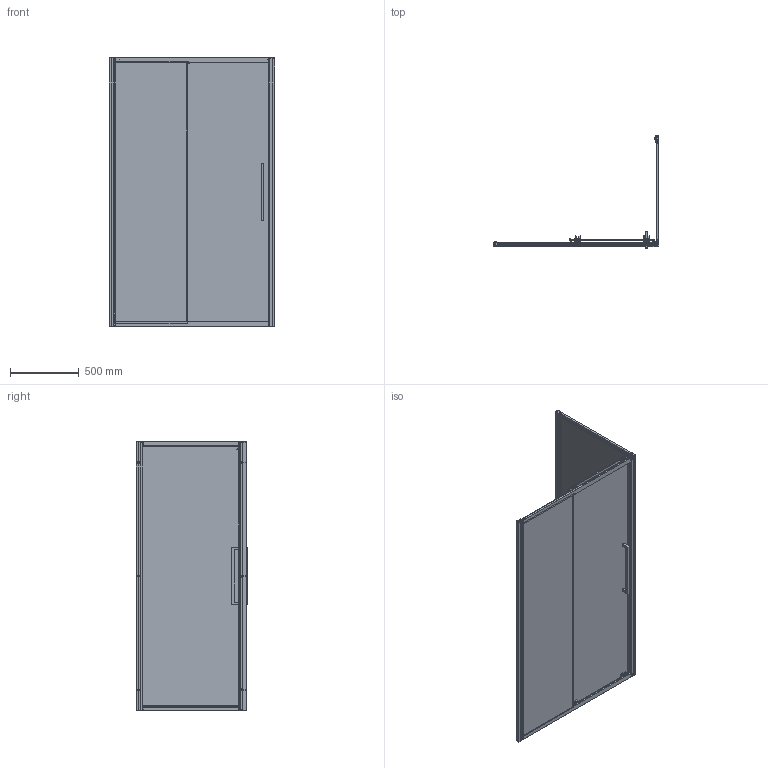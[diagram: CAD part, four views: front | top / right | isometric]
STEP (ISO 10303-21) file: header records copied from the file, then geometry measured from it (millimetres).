
FILE_DESCRIPTION((''),'2;1');
FILE_NAME('00-L617021_ASM','2022-05-25T08:55:17',('Administrator'),(''),'CREO PARAMETRIC BY PTC INC, 2017110','CREO PARAMETRIC BY PTC INC, 2017110','');
FILE_SCHEMA(('CONFIG_CONTROL_DESIGN'));
Length unit declared in the file: millimetre
Products named in the file (43): 00; DBT_ST4X20; YTZG_ST4X10; 28Z05-1-; 28Z05-2-; 000_ASM; 000; 0007; 003; 100; 002_ASM; 002; 0032; 003_ASM; _0001; 0011; 0012; 0035; _AF_ASM; _0002; 0013; _A_ASM; 10001; 0008_ASM; 0036; 0015; 0018; 0019; 1-N000; _N1000; _N0001; YTZG_ST4X12; 00-L617021_ASM
Assembly tree (79 placements, depth 5):
  00-L617021_ASM
    000_ASM
      00
      00
      DBT_ST4X20  x4
      000_ASM  x3
        YTZG_ST4X10
        28Z05-1-
        28Z05-2-
    00
    000
    0007
    002_ASM
      003
      100
      DBT_ST4X20  x6
      000_ASM  x3
        YTZG_ST4X10
        28Z05-1-
        28Z05-2-
    003_ASM
      000_ASM
        00
        00
        DBT_ST4X20  x4
        000_ASM  x3
          YTZG_ST4X10
          28Z05-1-
          28Z05-2-
      002
      0032  x2
    0008_ASM
      000
      _AF_ASM
        _0001
        00
        0011
        0012
        00
        00
        0035
      _AF_ASM
        _0001
        00
        0011
        0012
        00
        00
        0035
      _A_ASM
        _0002
        0013
        00
        0012
      _A_ASM
        _0002
        0013
        00
        0012
      10001
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Bounding box: 1200.7 x 811.4 x 1953 mm (x, y, z)
Volume: 39810379.6 mm3; surface area: 10032453 mm2
Topology: 94 solids, 94 shells, 3467 faces, 8611 edges, 5369 vertices
Faces by surface type: cylinder 1343, plane 1170, bspline 490, torus 233, cone 139, sphere 92
Entity records: 39933 total; most frequent: CARTESIAN_POINT 16331, DIRECTION 4878, ORIENTED_EDGE 4632, EDGE_CURVE 2316, AXIS2_PLACEMENT_3D 1732, VERTEX_POINT 1475, VECTOR 1414, LINE 1414
